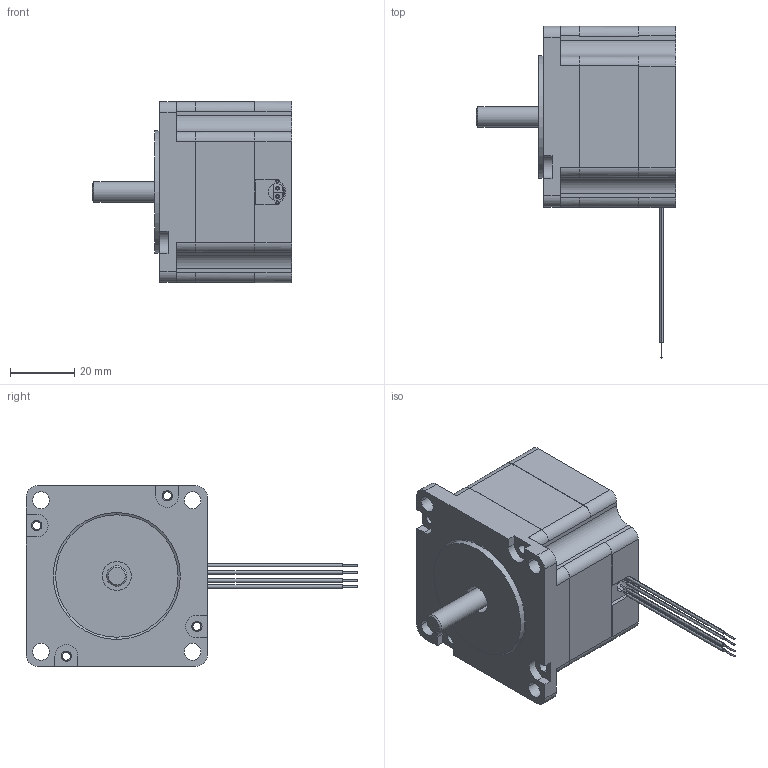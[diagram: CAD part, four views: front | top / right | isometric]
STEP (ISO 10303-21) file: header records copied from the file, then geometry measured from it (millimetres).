
FILE_DESCRIPTION( ('This file contains a STEP AP42 implementation' ,'as created by ZW3D STEP Interface translator.' ,'') ,'2;1' );
FILE_NAME( '57HS41H-XXXX-XXX.stp' ,'26 115.10 917', (''), ('ZWCAD Software Co.'), 'Version 1.0', 'ZW3D to STEP translator', '' );
FILE_SCHEMA(('AUTOMOTIVE_DESIGN { 1 0 10303 214 1 1 1 1 }'));
Length unit declared in the file: millimetre
Products named in the file (1): 0
Bounding box: 62 x 103.22 x 56.44 mm (x, y, z)
Volume: 65423.8 mm3; surface area: 49448 mm2
Topology: 4 solids, 4 shells, 1240 faces, 3933 edges, 2538 vertices
Faces by surface type: cylinder 561, plane 509, torus 112, cone 54, bspline 4
Full cylindrical faces by diameter (mm): 6.35 x2, 38.1 x1
Entity records: 45910 total; most frequent: CARTESIAN_POINT 8183, DIRECTION 7998, ORIENTED_EDGE 7866, EDGE_CURVE 3933, AXIS2_PLACEMENT_3D 2886, VERTEX_POINT 2538, VECTOR 2226, LINE 2226
